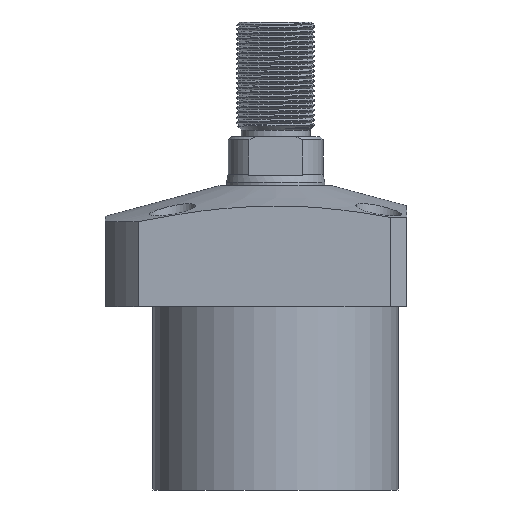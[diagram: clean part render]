
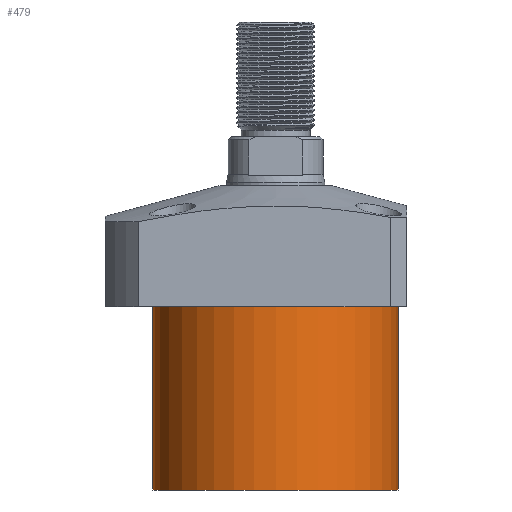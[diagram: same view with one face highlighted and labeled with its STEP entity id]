
A CAD part, front view. The second image highlights one B-rep face of the part: STEP entity #479.
In plain terms, the highlighted cylindrical face has radius 37.5 mm (diameter 75 mm), a partial arc.
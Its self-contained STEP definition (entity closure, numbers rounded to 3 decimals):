
#152 = CARTESIAN_POINT ( 'NONE',  ( 37.5, 0., -18.5 ) ) ;
#274 = ORIENTED_EDGE ( 'NONE', *, *, #636, .T. ) ;
#479 = ADVANCED_FACE ( 'NONE', ( #7876 ), #2960, .T. ) ;
#484 = DIRECTION ( 'NONE',  ( 0., 0., 1. ) ) ;
#636 = EDGE_CURVE ( 'NONE', #4487, #1311, #5660, .T. ) ;
#845 = AXIS2_PLACEMENT_3D ( 'NONE', #3058, #7408, #3029 ) ;
#996 = ORIENTED_EDGE ( 'NONE', *, *, #3020, .F. ) ;
#1002 = VERTEX_POINT ( 'NONE', #2133 ) ;
#1283 = EDGE_LOOP ( 'NONE', ( #4588, #996, #274, #6476 ) ) ;
#1311 = VERTEX_POINT ( 'NONE', #152 ) ;
#1911 = CARTESIAN_POINT ( 'NONE',  ( 0., 0., -74.5 ) ) ;
#1918 = CARTESIAN_POINT ( 'NONE',  ( 37.5, 0., -74.5 ) ) ;
#2133 = CARTESIAN_POINT ( 'NONE',  ( -37.5, 0., -74.5 ) ) ;
#2427 = CARTESIAN_POINT ( 'NONE',  ( 0., 0., -74.5 ) ) ;
#2547 = CARTESIAN_POINT ( 'NONE',  ( -37.5, 0., -74.5 ) ) ;
#2574 = DIRECTION ( 'NONE',  ( 0., 0., 1. ) ) ;
#2960 = CYLINDRICAL_SURFACE ( 'NONE', #7736, 37.5 ) ;
#3020 = EDGE_CURVE ( 'NONE', #4487, #1002, #3893, .T. ) ;
#3029 = DIRECTION ( 'NONE',  ( 1., 0., 0. ) ) ;
#3058 = CARTESIAN_POINT ( 'NONE',  ( 0., 0., -18.5 ) ) ;
#3360 = VECTOR ( 'NONE', #3811, 1000. ) ;
#3701 = CIRCLE ( 'NONE', #845, 37.5 ) ;
#3741 = DIRECTION ( 'NONE',  ( 0., 0., -1. ) ) ;
#3802 = DIRECTION ( 'NONE',  ( -1., 0., 0. ) ) ;
#3811 = DIRECTION ( 'NONE',  ( 0., 0., 1. ) ) ;
#3893 = CIRCLE ( 'NONE', #4329, 37.5 ) ;
#3936 = VERTEX_POINT ( 'NONE', #7341 ) ;
#4168 = CARTESIAN_POINT ( 'NONE',  ( 37.5, 0., -74.5 ) ) ;
#4192 = DIRECTION ( 'NONE',  ( 1., 0., 0. ) ) ;
#4329 = AXIS2_PLACEMENT_3D ( 'NONE', #1911, #3741, #3802 ) ;
#4487 = VERTEX_POINT ( 'NONE', #4168 ) ;
#4588 = ORIENTED_EDGE ( 'NONE', *, *, #6993, .F. ) ;
#5547 = LINE ( 'NONE', #2547, #6211 ) ;
#5660 = LINE ( 'NONE', #1918, #3360 ) ;
#6211 = VECTOR ( 'NONE', #2574, 1000. ) ;
#6476 = ORIENTED_EDGE ( 'NONE', *, *, #7504, .T. ) ;
#6993 = EDGE_CURVE ( 'NONE', #1002, #3936, #5547, .T. ) ;
#7341 = CARTESIAN_POINT ( 'NONE',  ( -37.5, 0., -18.5 ) ) ;
#7408 = DIRECTION ( 'NONE',  ( 0., 0., -1. ) ) ;
#7504 = EDGE_CURVE ( 'NONE', #1311, #3936, #3701, .T. ) ;
#7736 = AXIS2_PLACEMENT_3D ( 'NONE', #2427, #484, #4192 ) ;
#7876 = FACE_OUTER_BOUND ( 'NONE', #1283, .T. ) ;
